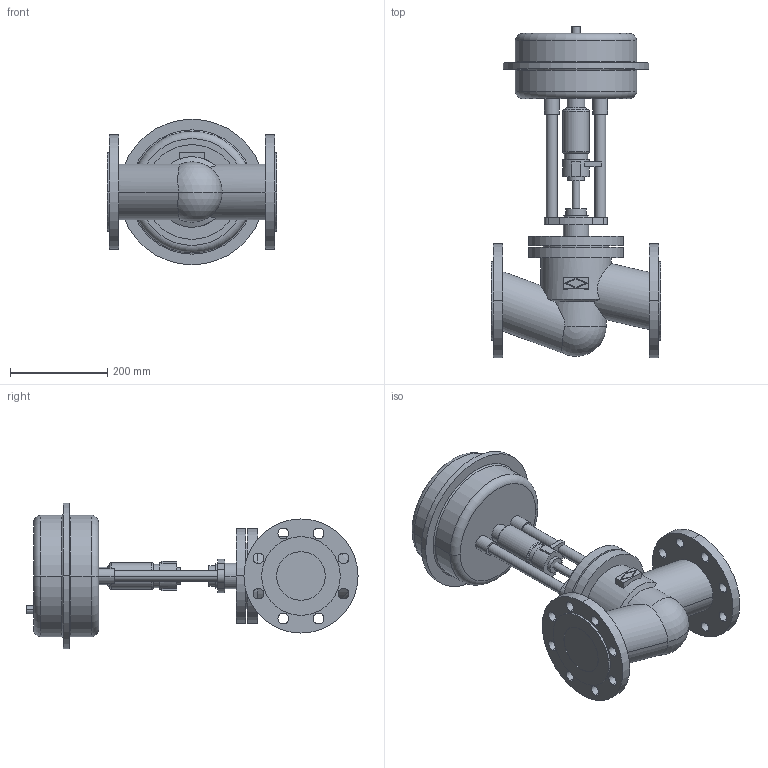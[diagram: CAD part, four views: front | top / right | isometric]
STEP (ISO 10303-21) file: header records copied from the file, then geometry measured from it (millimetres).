
FILE_DESCRIPTION(('OneSpaceDesigner STEP Export'),'2;1');
FILE_NAME('c000001482.stp','2005-02-15T 9:30:17',(''),(''),'OneSpace Designer STEP processor (Jan. 2003) for AP203(Solid Model)','OneSpace Designer 12.01D 09-Jul-2004 (C) CoCreate Software GmbH','');
FILE_SCHEMA(('CONFIG_CONTROL_DESIGN'));
Length unit declared in the file: millimetre
Products named in the file (2): 1; 2
Bounding box: 350 x 684.1 x 300 mm (x, y, z)
Volume: 15195728.3 mm3; surface area: 765025.5 mm2
Topology: 2 solids, 2 shells, 185 faces, 447 edges, 291 vertices
Faces by surface type: cylinder 96, plane 65, torus 16, cone 6, sphere 2
Entity records: 5158 total; most frequent: CARTESIAN_POINT 1057, ORIENTED_EDGE 890, DIRECTION 711, EDGE_CURVE 445, VERTEX_POINT 291, AXIS2_PLACEMENT_3D 262, EDGE_LOOP 244, VECTOR 187
